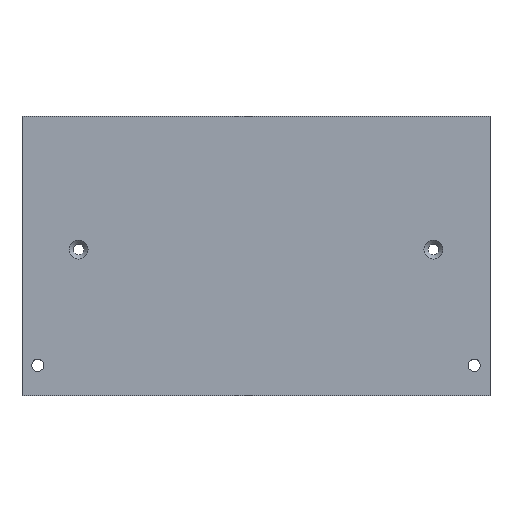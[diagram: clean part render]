
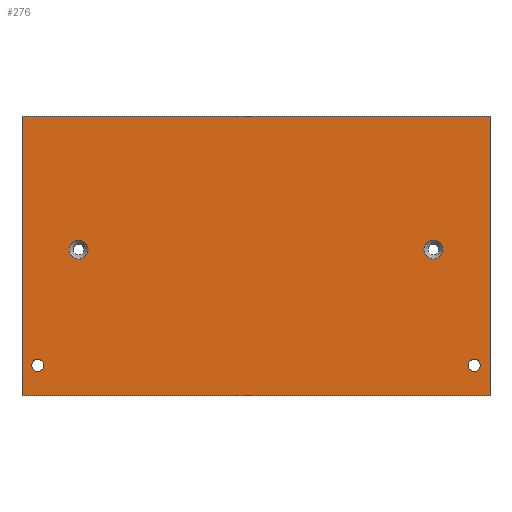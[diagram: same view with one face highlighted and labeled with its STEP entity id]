
A CAD part, top view. The second image highlights one B-rep face of the part: STEP entity #276.
In plain terms, the highlighted planar face has unit normal (0, 0, 1).
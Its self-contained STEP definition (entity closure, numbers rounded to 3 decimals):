
#34=FACE_BOUND('',#81,.T.);
#35=FACE_BOUND('',#82,.T.);
#36=FACE_BOUND('',#83,.T.);
#37=FACE_BOUND('',#84,.T.);
#46=PLANE('',#322);
#66=FACE_OUTER_BOUND('',#80,.T.);
#80=EDGE_LOOP('',(#246,#247,#248,#249));
#81=EDGE_LOOP('',(#250));
#82=EDGE_LOOP('',(#251));
#83=EDGE_LOOP('',(#252));
#84=EDGE_LOOP('',(#253));
#98=LINE('',#454,#118);
#102=LINE('',#462,#122);
#105=LINE('',#468,#125);
#108=LINE('',#473,#128);
#118=VECTOR('',#380,10.);
#122=VECTOR('',#386,10.);
#125=VECTOR('',#391,10.);
#128=VECTOR('',#396,10.);
#136=CIRCLE('',#309,2.95);
#137=CIRCLE('',#311,2.95);
#139=CIRCLE('',#314,1.9);
#141=CIRCLE('',#317,1.9);
#152=VERTEX_POINT('',#432);
#153=VERTEX_POINT('',#436);
#155=VERTEX_POINT('',#442);
#157=VERTEX_POINT('',#448);
#158=VERTEX_POINT('',#452);
#159=VERTEX_POINT('',#453);
#162=VERTEX_POINT('',#461);
#164=VERTEX_POINT('',#467);
#176=EDGE_CURVE('',#152,#152,#136,.T.);
#178=EDGE_CURVE('',#153,#153,#137,.T.);
#182=EDGE_CURVE('',#155,#155,#139,.T.);
#185=EDGE_CURVE('',#157,#157,#141,.T.);
#186=EDGE_CURVE('',#158,#159,#98,.T.);
#190=EDGE_CURVE('',#159,#162,#102,.T.);
#193=EDGE_CURVE('',#162,#164,#105,.T.);
#196=EDGE_CURVE('',#164,#158,#108,.T.);
#246=ORIENTED_EDGE('',*,*,#196,.T.);
#247=ORIENTED_EDGE('',*,*,#186,.T.);
#248=ORIENTED_EDGE('',*,*,#190,.T.);
#249=ORIENTED_EDGE('',*,*,#193,.T.);
#250=ORIENTED_EDGE('',*,*,#176,.T.);
#251=ORIENTED_EDGE('',*,*,#178,.T.);
#252=ORIENTED_EDGE('',*,*,#185,.T.);
#253=ORIENTED_EDGE('',*,*,#182,.T.);
#276=ADVANCED_FACE('',(#66,#34,#35,#36,#37),#46,.T.);
#309=AXIS2_PLACEMENT_3D('',#433,#356,#357);
#311=AXIS2_PLACEMENT_3D('',#437,#361,#362);
#314=AXIS2_PLACEMENT_3D('',#444,#369,#370);
#317=AXIS2_PLACEMENT_3D('',#450,#376,#377);
#322=AXIS2_PLACEMENT_3D('',#475,#398,#399);
#356=DIRECTION('center_axis',(0.,0.,-1.));
#357=DIRECTION('ref_axis',(1.,0.,0.));
#361=DIRECTION('center_axis',(0.,0.,-1.));
#362=DIRECTION('ref_axis',(1.,0.,0.));
#369=DIRECTION('center_axis',(0.,0.,-1.));
#370=DIRECTION('ref_axis',(-1.,0.,0.));
#376=DIRECTION('center_axis',(0.,0.,-1.));
#377=DIRECTION('ref_axis',(-1.,0.,0.));
#380=DIRECTION('',(0.,-1.,0.));
#386=DIRECTION('',(1.,0.,0.));
#391=DIRECTION('',(0.,1.,0.));
#396=DIRECTION('',(-1.,0.,0.));
#398=DIRECTION('center_axis',(0.,0.,1.));
#399=DIRECTION('ref_axis',(1.,0.,0.));
#432=CARTESIAN_POINT('',(-58.15,2.,0.));
#433=CARTESIAN_POINT('Origin',(-55.2,2.,0.));
#436=CARTESIAN_POINT('',(52.25,2.,0.));
#437=CARTESIAN_POINT('Origin',(55.2,2.,0.));
#442=CARTESIAN_POINT('',(-66.,-34.,0.));
#444=CARTESIAN_POINT('Origin',(-67.9,-34.,0.));
#448=CARTESIAN_POINT('',(69.8,-34.,0.));
#450=CARTESIAN_POINT('Origin',(67.9,-34.,0.));
#452=CARTESIAN_POINT('',(-72.8,43.5,0.));
#453=CARTESIAN_POINT('',(-72.8,-43.5,0.));
#454=CARTESIAN_POINT('',(-72.8,43.5,0.));
#461=CARTESIAN_POINT('',(72.8,-43.5,0.));
#462=CARTESIAN_POINT('',(-72.8,-43.5,0.));
#467=CARTESIAN_POINT('',(72.8,43.5,0.));
#468=CARTESIAN_POINT('',(72.8,-43.5,0.));
#473=CARTESIAN_POINT('',(72.8,43.5,0.));
#475=CARTESIAN_POINT('Origin',(0.,0.,0.));
